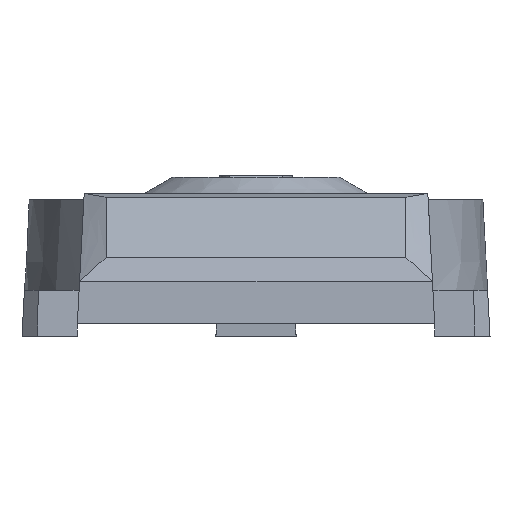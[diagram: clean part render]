
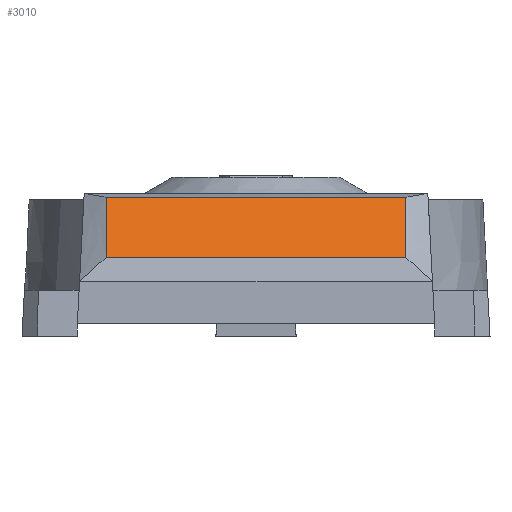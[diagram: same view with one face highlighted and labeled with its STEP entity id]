
A CAD part, left-side view. The second image highlights one B-rep face of the part: STEP entity #3010.
In plain terms, the highlighted planar face has unit normal (-0.643, 0, 0.766).
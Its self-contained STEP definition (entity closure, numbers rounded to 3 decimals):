
#156 = EDGE_LOOP ( 'NONE', ( #3092, #2031, #1732, #2619 ) ) ;
#201 = LINE ( 'NONE', #202, #203 ) ;
#202 = CARTESIAN_POINT ( 'NONE',  ( -417.31, 205.619, 190.505 ) ) ;
#203 = VECTOR ( 'NONE', #204, 1000. ) ;
#204 = DIRECTION ( 'NONE',  ( -0.766, 0., -0.643 ) ) ;
#314 = CARTESIAN_POINT ( 'NONE',  ( -515.549, 205.619, 108.072 ) ) ;
#1287 = CARTESIAN_POINT ( 'NONE',  ( -417.31, 205.619, 190.505 ) ) ;
#1552 = LINE ( 'NONE', #1553, #1554 ) ;
#1553 = CARTESIAN_POINT ( 'NONE',  ( -515.549, 205.619, 108.072 ) ) ;
#1554 = VECTOR ( 'NONE', #1555, 1000. ) ;
#1555 = DIRECTION ( 'NONE',  ( 0., -1., 0. ) ) ;
#1587 = LINE ( 'NONE', #1588, #1589 ) ;
#1588 = CARTESIAN_POINT ( 'NONE',  ( -417.31, -205.619, 190.505 ) ) ;
#1589 = VECTOR ( 'NONE', #1591, 1000. ) ;
#1591 = DIRECTION ( 'NONE',  ( 0., 1., 0. ) ) ;
#1608 = VERTEX_POINT ( 'NONE', #1287 ) ;
#1686 = CARTESIAN_POINT ( 'NONE',  ( -515.549, -205.619, 108.072 ) ) ;
#1732 = ORIENTED_EDGE ( 'NONE', *, *, #1978, .T. ) ;
#1978 = EDGE_CURVE ( 'NONE', #2549, #2189, #1552, .T. ) ;
#2021 = CARTESIAN_POINT ( 'NONE',  ( -417.31, -205.619, 190.505 ) ) ;
#2031 = ORIENTED_EDGE ( 'NONE', *, *, #2331, .T. ) ;
#2189 = VERTEX_POINT ( 'NONE', #1686 ) ;
#2202 = LINE ( 'NONE', #2203, #2204 ) ;
#2203 = CARTESIAN_POINT ( 'NONE',  ( -515.549, -205.619, 108.072 ) ) ;
#2204 = VECTOR ( 'NONE', #2205, 1000. ) ;
#2205 = DIRECTION ( 'NONE',  ( 0.766, 0., 0.643 ) ) ;
#2331 = EDGE_CURVE ( 'NONE', #1608, #2549, #201, .T. ) ;
#2500 = FACE_OUTER_BOUND ( 'NONE', #156, .T. ) ;
#2501 = PLANE ( 'NONE',  #2502 ) ;
#2502 = AXIS2_PLACEMENT_3D ( 'NONE', #2503, #2504, #2505 ) ;
#2503 = CARTESIAN_POINT ( 'NONE',  ( -417.31, -205.619, 190.505 ) ) ;
#2504 = DIRECTION ( 'NONE',  ( 0.643, 0., -0.766 ) ) ;
#2505 = DIRECTION ( 'NONE',  ( 0.766, 0., 0.643 ) ) ;
#2549 = VERTEX_POINT ( 'NONE', #314 ) ;
#2619 = ORIENTED_EDGE ( 'NONE', *, *, #2928, .T. ) ;
#2928 = EDGE_CURVE ( 'NONE', #2189, #3158, #2202, .T. ) ;
#3010 = ADVANCED_FACE ( 'NONE', ( #2500 ), #2501, .F. ) ;
#3092 = ORIENTED_EDGE ( 'NONE', *, *, #3127, .T. ) ;
#3127 = EDGE_CURVE ( 'NONE', #3158, #1608, #1587, .T. ) ;
#3158 = VERTEX_POINT ( 'NONE', #2021 ) ;
